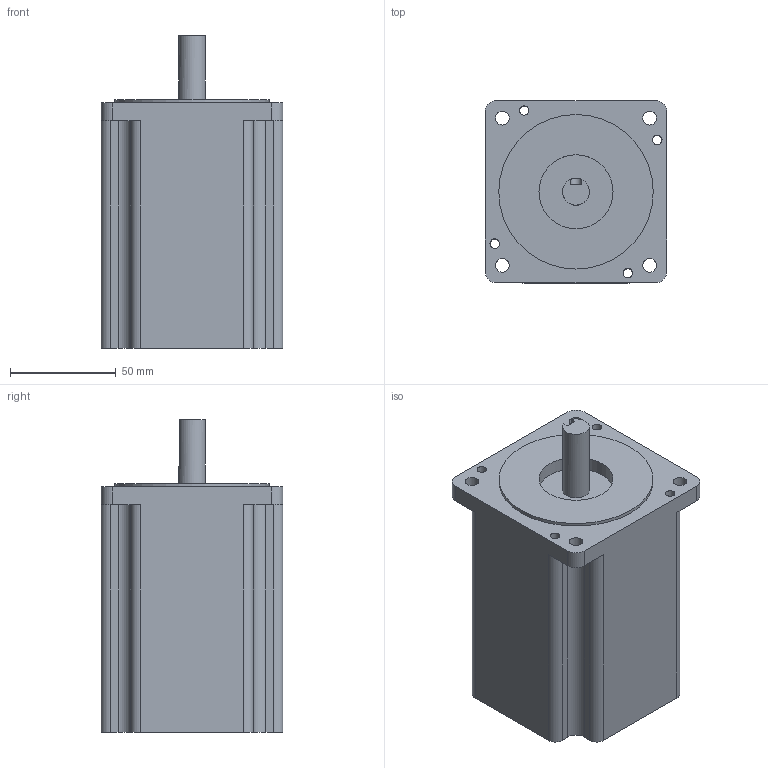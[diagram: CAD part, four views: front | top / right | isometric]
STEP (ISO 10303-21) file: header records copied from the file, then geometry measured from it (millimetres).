
FILE_DESCRIPTION(/* description */ (''),/* implementation_level */ '2;1');
FILE_NAME(/* name */ 'C:\Users\raffaele\Downloads\Projects\E&D\ipt-to-step-conversion\SLDPRT to STP\86SH118.stp',/* time_stamp */ '2021-04-07T17:16:32+02:00',/* author */ ('raffaele'),/* organization */ (''),/* preprocessor_version */ 'ST-DEVELOPER v18.1',/* originating_system */ 'Autodesk Inventor 2021',/* authorisation */ '');
FILE_SCHEMA (('AUTOMOTIVE_DESIGN { 1 0 10303 214 3 1 1 }'));
Length unit declared in the file: millimetre
Products named in the file (1): 86SH118
Bounding box: 86 x 86 x 147.85 mm (x, y, z)
Volume: 769858.4 mm3; surface area: 61304.6 mm2
Topology: 1 solids, 1 shells, 52 faces, 141 edges, 94 vertices
Faces by surface type: cylinder 28, plane 24
Full cylindrical faces by diameter (mm): 4.5 x4, 6.5 x4, 12.7 x1, 35 x1, 73 x1
Entity records: 1749 total; most frequent: CARTESIAN_POINT 305, DIRECTION 302, ORIENTED_EDGE 282, EDGE_CURVE 141, AXIS2_PLACEMENT_3D 109, VERTEX_POINT 94, LINE 84, VECTOR 84
